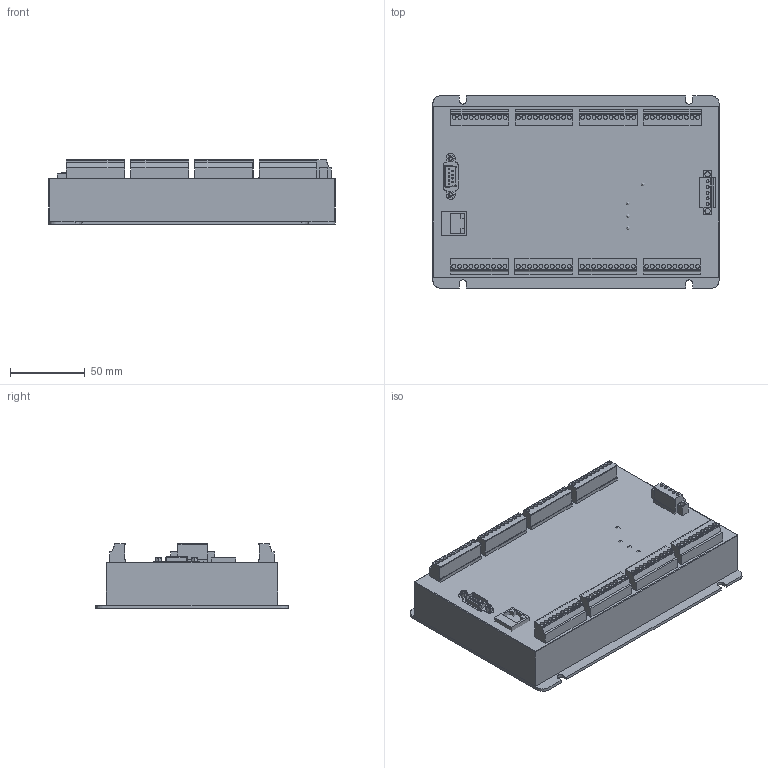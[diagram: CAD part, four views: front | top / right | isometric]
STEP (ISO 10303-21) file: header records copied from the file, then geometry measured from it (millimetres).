
FILE_DESCRIPTION(/* description */ (''),/* implementation_level */ '2;1');
FILE_NAME(/* name */ 'ECI0064模型2.step',/* time_stamp */ '2020-09-05T18:44:30+08:00',/* author */ (''),/* organization */ (''),/* preprocessor_version */ 'ST-DEVELOPER v16',/* originating_system */ 'SIEMENS PLM Software NX 10.0',/* authorisation */ '');
FILE_SCHEMA (('AUTOMOTIVE_DESIGN { 1 0 10303 214 3 1 1 1 }'));
Length unit declared in the file: millimetre
Products named in the file (1): ECI0064模型
Bounding box: 192 x 129 x 43 mm (x, y, z)
Volume: 714617.9 mm3; surface area: 95438.3 mm2
Topology: 18 solids, 18 shells, 495 faces, 1138 edges, 749 vertices
Faces by surface type: plane 300, cylinder 147, sphere 20, extrusion 13, bspline 13, torus 2
Full cylindrical faces by diameter (mm): 1 x9, 2 x2, 2.1 x2, 2.7 x80
Entity records: 13451 total; most frequent: CARTESIAN_POINT 3022, DIRECTION 2148, ORIENTED_EDGE 1848, EDGE_CURVE 924, AXIS2_PLACEMENT_3D 775, EDGE_LOOP 705, VERTEX_POINT 663, VECTOR 598
